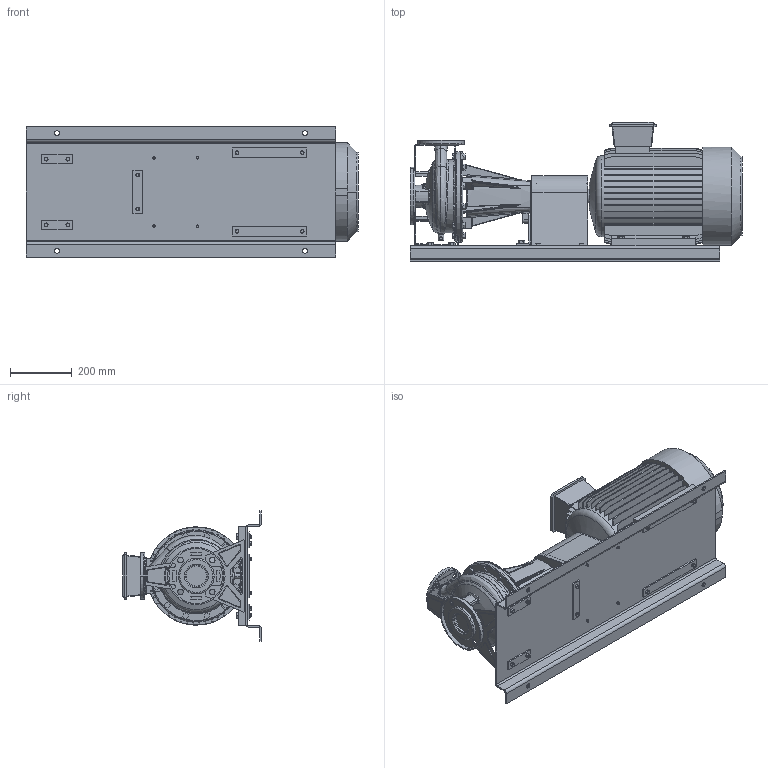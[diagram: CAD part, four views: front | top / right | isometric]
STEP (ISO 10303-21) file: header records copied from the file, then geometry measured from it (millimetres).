
FILE_DESCRIPTION((''),'2;1');
FILE_NAME('3P_40-200_11_IE3_ASM','2017-01-17T',('rosa'),('"Ebara Pumps Europe +39.444.706811"'),'PRO/ENGINEER BY PARAMETRIC TECHNOLOGY CORPORATION, 2012130','PRO/ENGINEER BY PARAMETRIC TECHNOLOGY CORPORATION, 2012130','');
FILE_SCHEMA(('AUTOMOTIVE_DESIGN { 1 0 10303 214 1 1 1 1 }'));
Products named in the file (22): CORPO_40-200_AF0; ASP_40-200; FLANGIA_DIN_65; MAND_40-200; FLANGIA_DIN_40; BASE_3M_40-200; CORPO_SALDATO_40-200_ASM; 80615; 80617; SOSTEGNO_SUPPORTO_3P_72031; 367617005; M12X30; 72060; GIUNTO_3P_24X42; COPRIGIUNTO_73023; VITE_8-8_TEIF_UNI5739-M08X012; LAFERT_MEC160M_B3_IE3; VITE_8-8_TEIF_UNI5739-M12X040; VITE_8-8_TEIF_UNI5739-M12X020; 360610085; VITE_8-8_TEIF_UNI5739-M12X025; 3P_40-200_11_IE3_ASM
Assembly tree (32 placements, depth 3):
  3P_40-200_11_IE3_ASM
    CORPO_SALDATO_40-200_ASM
      CORPO_40-200_AF0
      ASP_40-200
      FLANGIA_DIN_65
      MAND_40-200
      FLANGIA_DIN_40
      BASE_3M_40-200
    80615
    80617
    SOSTEGNO_SUPPORTO_3P_72031
    367617005
    M12X30
    72060
    GIUNTO_3P_24X42
    COPRIGIUNTO_73023
    VITE_8-8_TEIF_UNI5739-M08X012  x4
    LAFERT_MEC160M_B3_IE3
    VITE_8-8_TEIF_UNI5739-M12X040  x4
    VITE_8-8_TEIF_UNI5739-M12X020  x4
    360610085  x2
    VITE_8-8_TEIF_UNI5739-M12X025  x2
Bounding box: 1071 x 448 x 420 mm (x, y, z)
Volume: 44285490.7 mm3; surface area: 3690553.2 mm2
Topology: 36 solids, 50 shells, 1944 faces, 4889 edges, 3151 vertices
Faces by surface type: plane 1002, cylinder 513, cone 177, bspline 132, torus 108, sphere 12
Entity records: 77290 total; most frequent: CARTESIAN_POINT 18833, ORIENTED_EDGE 8778, DIRECTION 8666, PRESENTATION_STYLE_ASSIGNMENT 4400, STYLED_ITEM 4400, EDGE_CURVE 4397, CURVE_STYLE 4373, AXIS2_PLACEMENT_3D 3079
